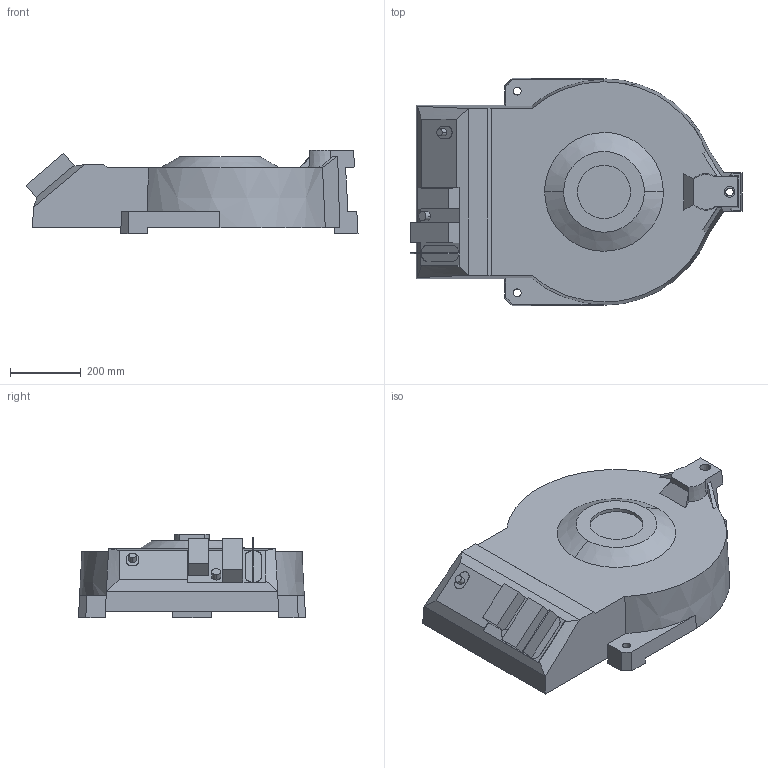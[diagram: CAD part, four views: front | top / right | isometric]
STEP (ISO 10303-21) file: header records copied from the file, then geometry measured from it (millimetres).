
FILE_DESCRIPTION (( 'STEP AP214' ), '1' );
FILE_NAME ('IRB4400_60-195_IRC5_rev02_BASE_CAD.STEP', '2016-11-03T06:03:39', ( 'ABB' ), ( 'ABB' ), 'SwSTEP 2.0', 'SolidWorks 2014', '' );
FILE_SCHEMA (( 'AUTOMOTIVE_DESIGN' ));
Length unit declared in the file: millimetre
Products named in the file (1): IRB4400_60-195_IRC5_rev02_BASE_CAD
Bounding box: 938.26 x 641.78 x 237 mm (x, y, z)
Volume: 76149724.5 mm3; surface area: 1477029.9 mm2
Topology: 1 solids, 1 shells, 117 faces, 313 edges, 206 vertices
Faces by surface type: plane 76, cylinder 22, cone 13, bspline 6
Entity records: 4471 total; most frequent: CARTESIAN_POINT 1538, ORIENTED_EDGE 622, DIRECTION 538, EDGE_CURVE 311, LINE 206, VECTOR 206, VERTEX_POINT 206, AXIS2_PLACEMENT_3D 166
